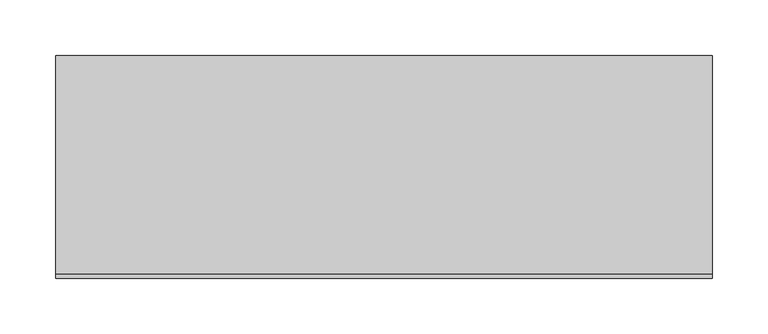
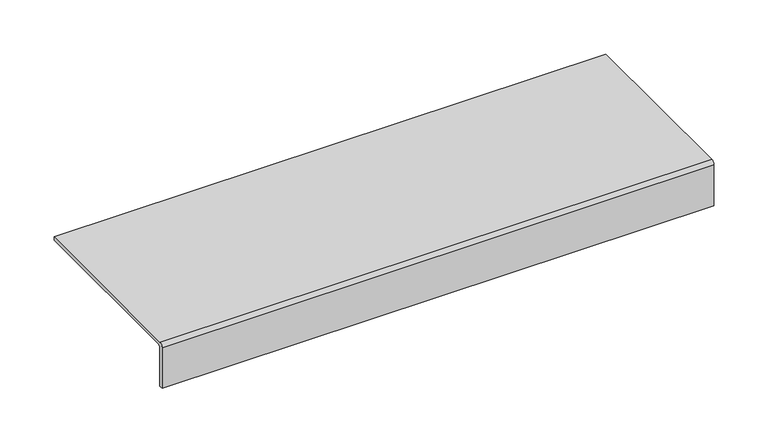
"""IFC4 building model written with IfcOpenShell, lengths in millimetres: proxy geometry, ЛМ_Лист_ПВ1_(ТУ_36.26.11-5-89) : Лист ПВ1."""

from ifc_helpers import new_model, si_unit, point, frame, frame_2d, origin, place, context, project, spatial, polyline, circle_curve, trimmed, segment, composite_curve, outline, extrude, source, transform, mapped, element, save


def generic_models_e4dd3465(model_context):
    return source(origin(), model_context, "Body", "SweptSolid", [
        extrude(outline(composite_curve([segment(polyline([(0.0, 46.0), (-192.0, 46.0)]), True, "CONTINUOUS"), segment(trimmed(circle_curve(frame_2d((-192.0, 42.0)), 4.0), [point((-192.0, 46.0))], [point((-196.0, 42.0))], True, "CARTESIAN"), True, "CONTINUOUS"), segment(polyline([(-196.0, 42.0), (-196.0, 0.0), (-200.0, 0.0), (-200.0, 46.0)]), True, "CONTINUOUS"), segment(trimmed(circle_curve(frame_2d((-196.0, 46.0)), 4.0), [point((-200.0, 46.0))], [point((-196.0, 50.0))], False, "CARTESIAN"), True, "CONTINUOUS"), segment(polyline([(-196.0, 50.0), (0.0, 50.0), (0.0, 46.0)]), True, "CONTINUOUS")], self_intersect=False)), frame((0.0, 0.0, 0.0), z_axis=(1.0, 0.0, 0.0), x_axis=(0.0, 1.0, 0.0)), (0.0, 0.0, 1.0), 589.4),
    ])


if __name__ == "__main__":
    model = new_model("IFC4")
    model_context = context("Model", 3, world=origin())
    ifc_project = project(units=[si_unit("LENGTHUNIT", "METRE", prefix="MILLI")], contexts=[model_context])
    site = spatial("IfcSite", under=ifc_project)
    building = spatial("IfcBuilding", under=site)
    placement = place(None, origin())
    generic_models_shape = generic_models_e4dd3465(model_context)
    element("IfcBuildingElementProxy", 1, Name="ЛМ_Лист_ПВ1_(ТУ_36.26.11-5-89) : Лист ПВ1", ObjectType="ЛМ_Лист_ПВ1_(ТУ_36.26.11-5-89) : Лист ПВ1", at=placement, inside=building, context=model_context, shape_type="MappedRepresentation", body=[
        mapped(generic_models_shape, transform((0.0, 0.0, 0.0), x_axis=(1.0, 0.0, 0.0), y_axis=(0.0, 1.0, 0.0), z_axis=(0.0, 0.0, 1.0))),
    ])
    save(model, "model.ifc")
